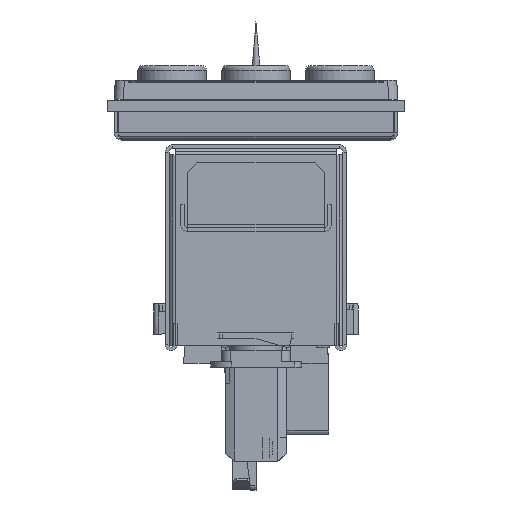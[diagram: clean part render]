
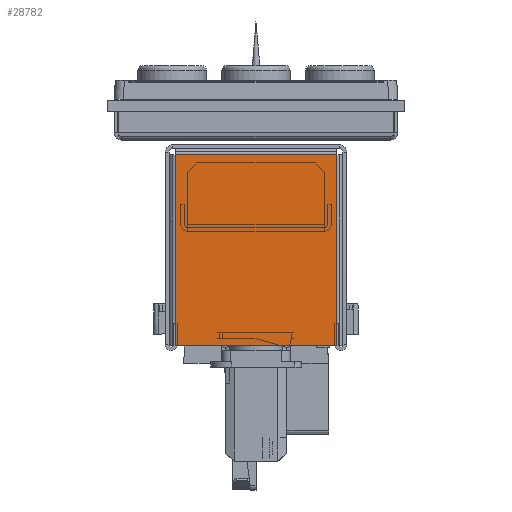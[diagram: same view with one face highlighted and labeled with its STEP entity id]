
A CAD part, left-side view. The second image highlights one B-rep face of the part: STEP entity #28782.
In plain terms, the highlighted planar face has unit normal (-1, 0, 0).
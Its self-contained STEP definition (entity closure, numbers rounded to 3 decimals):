
#3090=FACE_OUTER_BOUND('',#4873,.T.);
#4873=EDGE_LOOP('',(#20327,#20328,#20329,#20330));
#6685=LINE('',#46081,#9303);
#6695=LINE('',#46102,#9313);
#6696=LINE('',#46104,#9314);
#6697=LINE('',#46105,#9315);
#9303=VECTOR('',#35223,10.);
#9313=VECTOR('',#35243,10.);
#9314=VECTOR('',#35244,10.);
#9315=VECTOR('',#35245,10.);
#12165=VERTEX_POINT('',#46078);
#12166=VERTEX_POINT('',#46080);
#12172=VERTEX_POINT('',#46101);
#12173=VERTEX_POINT('',#46103);
#15225=EDGE_CURVE('',#12166,#12165,#6685,.T.);
#15236=EDGE_CURVE('',#12165,#12172,#6695,.T.);
#15237=EDGE_CURVE('',#12172,#12173,#6696,.T.);
#15238=EDGE_CURVE('',#12173,#12166,#6697,.T.);
#20327=ORIENTED_EDGE('',*,*,#15236,.T.);
#20328=ORIENTED_EDGE('',*,*,#15237,.T.);
#20329=ORIENTED_EDGE('',*,*,#15238,.T.);
#20330=ORIENTED_EDGE('',*,*,#15225,.T.);
#27662=PLANE('',#30980);
#28782=ADVANCED_FACE('',(#3090),#27662,.T.);
#30980=AXIS2_PLACEMENT_3D('',#46100,#35241,#35242);
#35223=DIRECTION('',(0.,0.,-1.));
#35241=DIRECTION('center_axis',(-1.,0.,0.));
#35242=DIRECTION('ref_axis',(0.,1.,0.));
#35243=DIRECTION('',(0.,-1.,0.));
#35244=DIRECTION('',(0.,0.,1.));
#35245=DIRECTION('',(0.,1.,0.));
#46078=CARTESIAN_POINT('',(-68.55,17.6,-191.971));
#46080=CARTESIAN_POINT('',(-68.55,17.6,-150.371));
#46081=CARTESIAN_POINT('',(-68.55,17.6,-160.8));
#46100=CARTESIAN_POINT('Origin',(-68.55,0.,
-171.23));
#46101=CARTESIAN_POINT('',(-68.55,-17.6,-191.971));
#46102=CARTESIAN_POINT('',(-68.55,9.5,-191.971));
#46103=CARTESIAN_POINT('',(-68.55,-17.6,-150.371));
#46104=CARTESIAN_POINT('',(-68.55,-17.6,-182.2));
#46105=CARTESIAN_POINT('',(-68.55,-9.5,-150.371));
